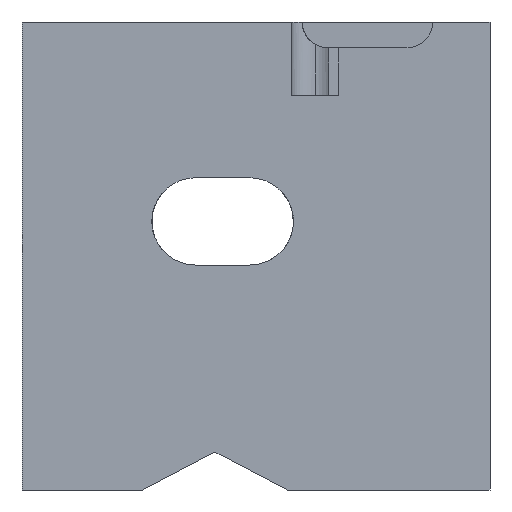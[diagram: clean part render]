
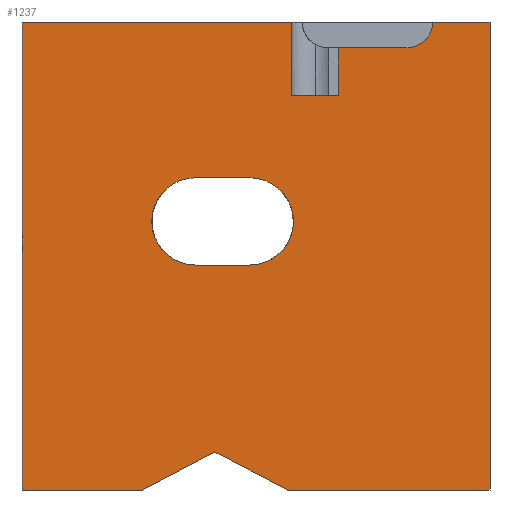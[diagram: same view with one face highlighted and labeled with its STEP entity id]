
A CAD part, left-side view. The second image highlights one B-rep face of the part: STEP entity #1237.
In plain terms, the highlighted planar face has unit normal (-1, 0, 0).
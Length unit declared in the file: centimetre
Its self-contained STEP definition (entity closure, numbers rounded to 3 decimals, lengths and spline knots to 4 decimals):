
#5 = CIRCLE ( 'NONE', #1379, 55.1763 ) ;
#10 = CARTESIAN_POINT ( 'NONE',  ( 0., 122.1881, 1000. ) ) ;
#11 = CARTESIAN_POINT ( 'NONE',  ( 0., 1000., 0. ) ) ;
#15 = VERTEX_POINT ( 'NONE', #489 ) ;
#34 = ORIENTED_EDGE ( 'NONE', *, *, #1299, .T. ) ;
#55 = DIRECTION ( 'NONE',  ( 0., -1., 0. ) ) ;
#61 = VECTOR ( 'NONE', #772, 100. ) ;
#78 = PLANE ( 'NONE',  #117 ) ;
#117 = AXIS2_PLACEMENT_3D ( 'NONE', #645, #1537, #392 ) ;
#124 = CARTESIAN_POINT ( 'NONE',  ( 0., 0., 1000. ) ) ;
#139 = DIRECTION ( 'NONE',  ( 0., -1., 0. ) ) ;
#141 = ORIENTED_EDGE ( 'NONE', *, *, #1545, .T. ) ;
#146 = CARTESIAN_POINT ( 'NONE',  ( 0., 0., 1000. ) ) ;
#161 = VECTOR ( 'NONE', #832, 100. ) ;
#182 = DIRECTION ( 'NONE',  ( 0., 0., 1. ) ) ;
#214 = VECTOR ( 'NONE', #937, 100. ) ;
#251 = CARTESIAN_POINT ( 'NONE',  ( 0., 629.5385, 573.9236 ) ) ;
#264 = ORIENTED_EDGE ( 'NONE', *, *, #1068, .F. ) ;
#270 = VECTOR ( 'NONE', #1565, 100. ) ;
#286 = DIRECTION ( 'NONE',  ( -1., 0., 0. ) ) ;
#290 = CARTESIAN_POINT ( 'NONE',  ( 0., 0., 0. ) ) ;
#299 = LINE ( 'NONE', #11, #1275 ) ;
#305 = ORIENTED_EDGE ( 'NONE', *, *, #1154, .T. ) ;
#329 = VERTEX_POINT ( 'NONE', #290 ) ;
#334 = VERTEX_POINT ( 'NONE', #1279 ) ;
#368 = EDGE_LOOP ( 'NONE', ( #141, #1586, #1484, #480 ) ) ;
#378 = LINE ( 'NONE', #520, #214 ) ;
#388 = EDGE_CURVE ( 'NONE', #1295, #459, #426, .T. ) ;
#392 = DIRECTION ( 'NONE',  ( 0., 0., -1. ) ) ;
#404 = DIRECTION ( 'NONE',  ( 1., 0., 0. ) ) ;
#426 = LINE ( 'NONE', #975, #161 ) ;
#428 = VERTEX_POINT ( 'NONE', #1019 ) ;
#436 = CARTESIAN_POINT ( 'NONE',  ( 0., 742.3769, 0. ) ) ;
#459 = VERTEX_POINT ( 'NONE', #436 ) ;
#460 = EDGE_CURVE ( 'NONE', #1574, #15, #483, .T. ) ;
#471 = VERTEX_POINT ( 'NONE', #1028 ) ;
#480 = ORIENTED_EDGE ( 'NONE', *, *, #1759, .T. ) ;
#483 = CIRCLE ( 'NONE', #1784, 93.1775 ) ;
#489 = CARTESIAN_POINT ( 'NONE',  ( 0., 513.0734, 480.7461 ) ) ;
#519 = VERTEX_POINT ( 'NONE', #1638 ) ;
#520 = CARTESIAN_POINT ( 'NONE',  ( 0., 1000., 1000. ) ) ;
#572 = EDGE_CURVE ( 'NONE', #334, #1838, #1655, .T. ) ;
#586 = VERTEX_POINT ( 'NONE', #780 ) ;
#603 = DIRECTION ( 'NONE',  ( 0., -1., 0. ) ) ;
#645 = CARTESIAN_POINT ( 'NONE',  ( 0., 1000., 1000. ) ) ;
#664 = CARTESIAN_POINT ( 'NONE',  ( 0., 1000., 843.156 ) ) ;
#683 = VECTOR ( 'NONE', #1814, 100. ) ;
#728 = VERTEX_POINT ( 'NONE', #778 ) ;
#729 = ORIENTED_EDGE ( 'NONE', *, *, #1510, .F. ) ;
#748 = LINE ( 'NONE', #1324, #1018 ) ;
#772 = DIRECTION ( 'NONE',  ( 0., 1., 0. ) ) ;
#778 = CARTESIAN_POINT ( 'NONE',  ( 0., 629.5385, 667.1011 ) ) ;
#780 = CARTESIAN_POINT ( 'NONE',  ( 0., 432.9147, 0. ) ) ;
#785 = FACE_OUTER_BOUND ( 'NONE', #950, .T. ) ;
#799 = DIRECTION ( 'NONE',  ( 0., 0.886, 0.464 ) ) ;
#810 = DIRECTION ( 'NONE',  ( 0., 0., -1. ) ) ;
#821 = VECTOR ( 'NONE', #55, 100. ) ;
#832 = DIRECTION ( 'NONE',  ( 0., 0.886, -0.464 ) ) ;
#848 = LINE ( 'NONE', #1858, #1778 ) ;
#869 = VERTEX_POINT ( 'NONE', #10 ) ;
#884 = VECTOR ( 'NONE', #603, 100. ) ;
#902 = VERTEX_POINT ( 'NONE', #1288 ) ;
#905 = CARTESIAN_POINT ( 'NONE',  ( 0., 513.0734, 480.7461 ) ) ;
#906 = CARTESIAN_POINT ( 'NONE',  ( 0., 1000., 0. ) ) ;
#913 = VECTOR ( 'NONE', #139, 100. ) ;
#937 = DIRECTION ( 'NONE',  ( 0., 0., -1. ) ) ;
#942 = VERTEX_POINT ( 'NONE', #906 ) ;
#943 = CARTESIAN_POINT ( 'NONE',  ( 0., 432.9147, 0. ) ) ;
#947 = EDGE_CURVE ( 'NONE', #902, #428, #748, .T. ) ;
#950 = EDGE_LOOP ( 'NONE', ( #1141, #1439, #1432, #34, #1313, #1451, #1610, #1544, #264, #1639, #1617, #729, #305 ) ) ;
#963 = CARTESIAN_POINT ( 'NONE',  ( 0., 629.5385, 480.7461 ) ) ;
#970 = LINE ( 'NONE', #146, #270 ) ;
#975 = CARTESIAN_POINT ( 'NONE',  ( 0., 587.6458, 81.1056 ) ) ;
#995 = LINE ( 'NONE', #1277, #913 ) ;
#1009 = DIRECTION ( 'NONE',  ( 0., 0., -1. ) ) ;
#1018 = VECTOR ( 'NONE', #1490, 100. ) ;
#1019 = CARTESIAN_POINT ( 'NONE',  ( 0., 177.3644, 944.8236 ) ) ;
#1028 = CARTESIAN_POINT ( 'NONE',  ( 0., 322.7894, 843.156 ) ) ;
#1032 = EDGE_CURVE ( 'NONE', #15, #1149, #1181, .T. ) ;
#1068 = EDGE_CURVE ( 'NONE', #471, #902, #1661, .T. ) ;
#1075 = CARTESIAN_POINT ( 'NONE',  ( 0., 424.2756, 843.156 ) ) ;
#1141 = ORIENTED_EDGE ( 'NONE', *, *, #1805, .T. ) ;
#1147 = EDGE_CURVE ( 'NONE', #586, #1295, #1671, .T. ) ;
#1149 = VERTEX_POINT ( 'NONE', #963 ) ;
#1154 = EDGE_CURVE ( 'NONE', #519, #942, #378, .T. ) ;
#1168 = EDGE_CURVE ( 'NONE', #334, #471, #1680, .T. ) ;
#1181 = LINE ( 'NONE', #905, #61 ) ;
#1192 = DIRECTION ( 'NONE',  ( 0., 0., 1. ) ) ;
#1237 = ADVANCED_FACE ( 'NONE', ( #1398, #785 ), #78, .F. ) ;
#1262 = VERTEX_POINT ( 'NONE', #124 ) ;
#1275 = VECTOR ( 'NONE', #1717, 100. ) ;
#1277 = CARTESIAN_POINT ( 'NONE',  ( 0., 1000., 1000. ) ) ;
#1279 = CARTESIAN_POINT ( 'NONE',  ( 0., 424.2756, 843.156 ) ) ;
#1288 = CARTESIAN_POINT ( 'NONE',  ( 0., 322.7894, 944.8236 ) ) ;
#1295 = VERTEX_POINT ( 'NONE', #1408 ) ;
#1298 = DIRECTION ( 'NONE',  ( 0., 0., -1. ) ) ;
#1299 = EDGE_CURVE ( 'NONE', #586, #329, #848, .T. ) ;
#1312 = CARTESIAN_POINT ( 'NONE',  ( 0., 513.0734, 667.1011 ) ) ;
#1313 = ORIENTED_EDGE ( 'NONE', *, *, #1316, .F. ) ;
#1316 = EDGE_CURVE ( 'NONE', #1262, #329, #970, .T. ) ;
#1324 = CARTESIAN_POINT ( 'NONE',  ( 0., 177.3644, 944.8236 ) ) ;
#1336 = AXIS2_PLACEMENT_3D ( 'NONE', #251, #404, #810 ) ;
#1351 = EDGE_CURVE ( 'NONE', #428, #869, #5, .T. ) ;
#1379 = AXIS2_PLACEMENT_3D ( 'NONE', #1725, #286, #1298 ) ;
#1385 = VECTOR ( 'NONE', #1192, 100. ) ;
#1398 = FACE_BOUND ( 'NONE', #368, .T. ) ;
#1408 = CARTESIAN_POINT ( 'NONE',  ( 0., 587.6458, 81.1056 ) ) ;
#1409 = VECTOR ( 'NONE', #182, 100. ) ;
#1432 = ORIENTED_EDGE ( 'NONE', *, *, #1147, .F. ) ;
#1439 = ORIENTED_EDGE ( 'NONE', *, *, #388, .F. ) ;
#1451 = ORIENTED_EDGE ( 'NONE', *, *, #1790, .F. ) ;
#1484 = ORIENTED_EDGE ( 'NONE', *, *, #1032, .T. ) ;
#1485 = DIRECTION ( 'NONE',  ( 1., 0., 0. ) ) ;
#1488 = CARTESIAN_POINT ( 'NONE',  ( 0., 629.5385, 667.1011 ) ) ;
#1489 = CARTESIAN_POINT ( 'NONE',  ( 0., 322.7894, 843.156 ) ) ;
#1490 = DIRECTION ( 'NONE',  ( 0., -1., 0. ) ) ;
#1510 = EDGE_CURVE ( 'NONE', #519, #1838, #1773, .T. ) ;
#1537 = DIRECTION ( 'NONE',  ( 1., 0., 0. ) ) ;
#1544 = ORIENTED_EDGE ( 'NONE', *, *, #947, .F. ) ;
#1545 = EDGE_CURVE ( 'NONE', #728, #1574, #1763, .T. ) ;
#1565 = DIRECTION ( 'NONE',  ( 0., 0., -1. ) ) ;
#1574 = VERTEX_POINT ( 'NONE', #1312 ) ;
#1586 = ORIENTED_EDGE ( 'NONE', *, *, #460, .T. ) ;
#1607 = CARTESIAN_POINT ( 'NONE',  ( 0., 1000., 1000. ) ) ;
#1610 = ORIENTED_EDGE ( 'NONE', *, *, #1351, .F. ) ;
#1616 = CARTESIAN_POINT ( 'NONE',  ( 0., 513.0734, 573.9236 ) ) ;
#1617 = ORIENTED_EDGE ( 'NONE', *, *, #572, .T. ) ;
#1635 = VECTOR ( 'NONE', #799, 100. ) ;
#1638 = CARTESIAN_POINT ( 'NONE',  ( 0., 1000., 1000. ) ) ;
#1639 = ORIENTED_EDGE ( 'NONE', *, *, #1168, .F. ) ;
#1655 = LINE ( 'NONE', #1075, #1385 ) ;
#1661 = LINE ( 'NONE', #1489, #1409 ) ;
#1671 = LINE ( 'NONE', #943, #1635 ) ;
#1680 = LINE ( 'NONE', #664, #683 ) ;
#1713 = DIRECTION ( 'NONE',  ( 0., -1., 0. ) ) ;
#1717 = DIRECTION ( 'NONE',  ( 0., -1., 0. ) ) ;
#1725 = CARTESIAN_POINT ( 'NONE',  ( 0., 177.3644, 1000. ) ) ;
#1735 = CARTESIAN_POINT ( 'NONE',  ( 0., 424.2756, 1000. ) ) ;
#1759 = EDGE_CURVE ( 'NONE', #1149, #728, #1826, .T. ) ;
#1763 = LINE ( 'NONE', #1488, #821 ) ;
#1773 = LINE ( 'NONE', #1607, #884 ) ;
#1778 = VECTOR ( 'NONE', #1713, 100. ) ;
#1784 = AXIS2_PLACEMENT_3D ( 'NONE', #1616, #1485, #1009 ) ;
#1790 = EDGE_CURVE ( 'NONE', #869, #1262, #995, .T. ) ;
#1805 = EDGE_CURVE ( 'NONE', #942, #459, #299, .T. ) ;
#1814 = DIRECTION ( 'NONE',  ( 0., -1., 0. ) ) ;
#1826 = CIRCLE ( 'NONE', #1336, 93.1775 ) ;
#1838 = VERTEX_POINT ( 'NONE', #1735 ) ;
#1858 = CARTESIAN_POINT ( 'NONE',  ( 0., 1000., 0. ) ) ;
